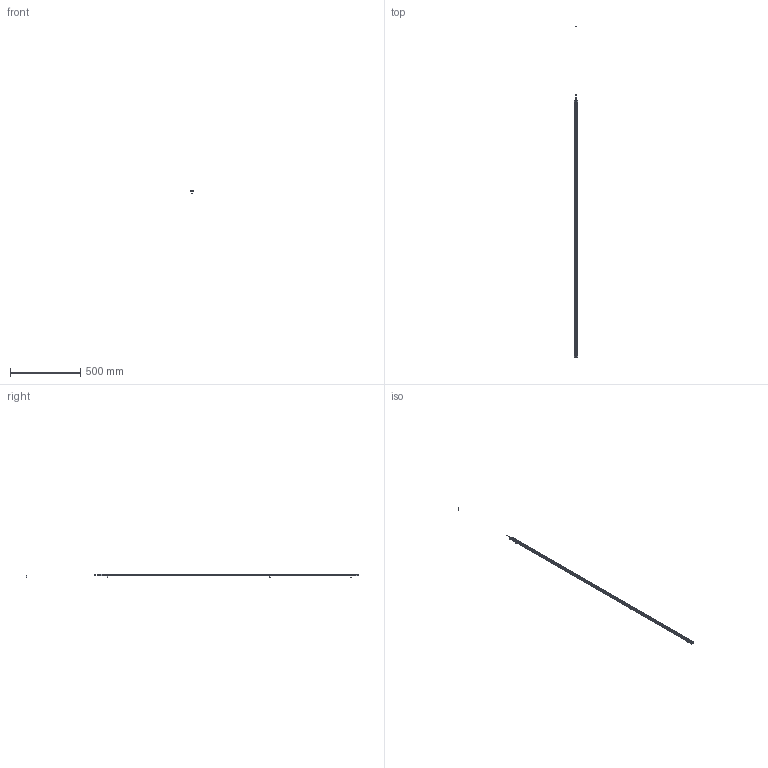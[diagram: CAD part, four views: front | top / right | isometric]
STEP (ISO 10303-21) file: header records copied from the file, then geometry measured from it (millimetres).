
FILE_DESCRIPTION (( 'STEP AP214' ), '1' );
FILE_NAME ('ILGA-B-K1-1830mm.STEP', '2026-04-24T22:50:53', ( '' ), ( '' ), 'SwSTEP 2.0', 'SolidWorks 2025', '' );
FILE_SCHEMA (( 'AUTOMOTIVE_DESIGN' ));
Length unit declared in the file: millimetre
Products named in the file (1): ILGA-B-K1-1830mm
Bounding box: 22.4 x 2359.47 x 25.7 mm (x, y, z)
Volume: 137820.6 mm3; surface area: 248378 mm2
Topology: 13 solids, 13 shells, 724 faces, 1856 edges, 1136 vertices
Faces by surface type: plane 314, cylinder 268, cone 60, torus 42, bspline 24, sphere 16
Entity records: 30221 total; most frequent: CARTESIAN_POINT 4617, DIRECTION 3820, ORIENTED_EDGE 3624, EDGE_CURVE 1812, AXIS2_PLACEMENT_3D 1427, VERTEX_POINT 1136, VECTOR 966, LINE 966
